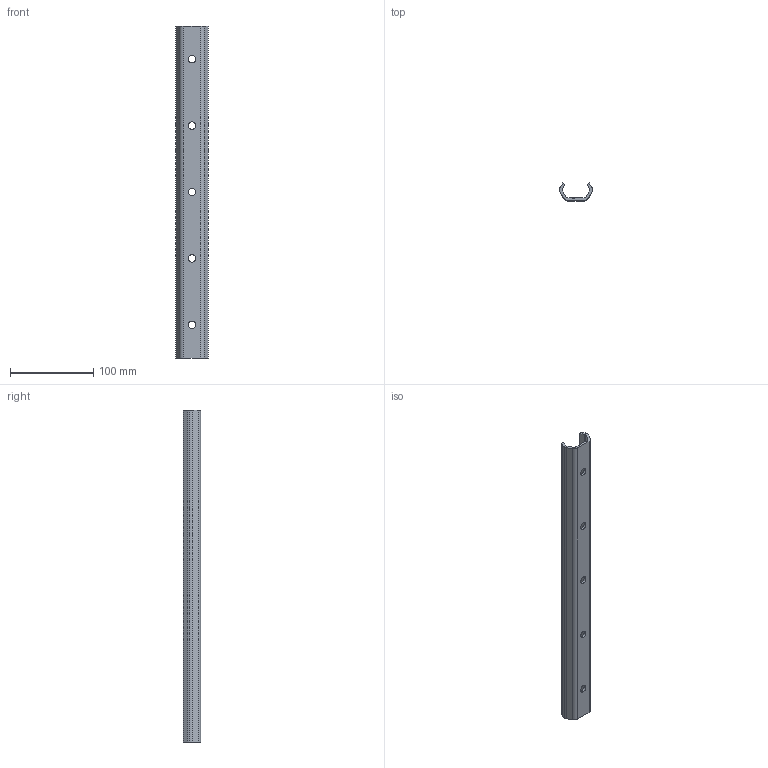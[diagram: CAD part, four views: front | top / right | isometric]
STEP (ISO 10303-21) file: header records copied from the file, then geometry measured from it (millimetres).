
FILE_DESCRIPTION(('STEP AP214'),'1');
FILE_NAME('rail_tex40-400.stp','2019-03-08T08:32:53',('TraceParts'),('TraceParts S.A.'),'Spatial InterOp 3D',' ',' ');
FILE_SCHEMA(('automotive_design'));
Length unit declared in the file: millimetre
Products named in the file (1): rail_tex40-400
Bounding box: 39.53 x 21 x 400 mm (x, y, z)
Volume: 78198.6 mm3; surface area: 55431.5 mm2
Topology: 1 solids, 1 shells, 127 faces, 333 edges, 222 vertices
Faces by surface type: plane 87, cylinder 22, bspline 18
Entity records: 7720 total; most frequent: CARTESIAN_POINT 3597, ORIENTED_EDGE 666, DIRECTION 561, EDGE_CURVE 333, LINE 253, VECTOR 253, VERTEX_POINT 222, AXIS2_PLACEMENT_3D 154
